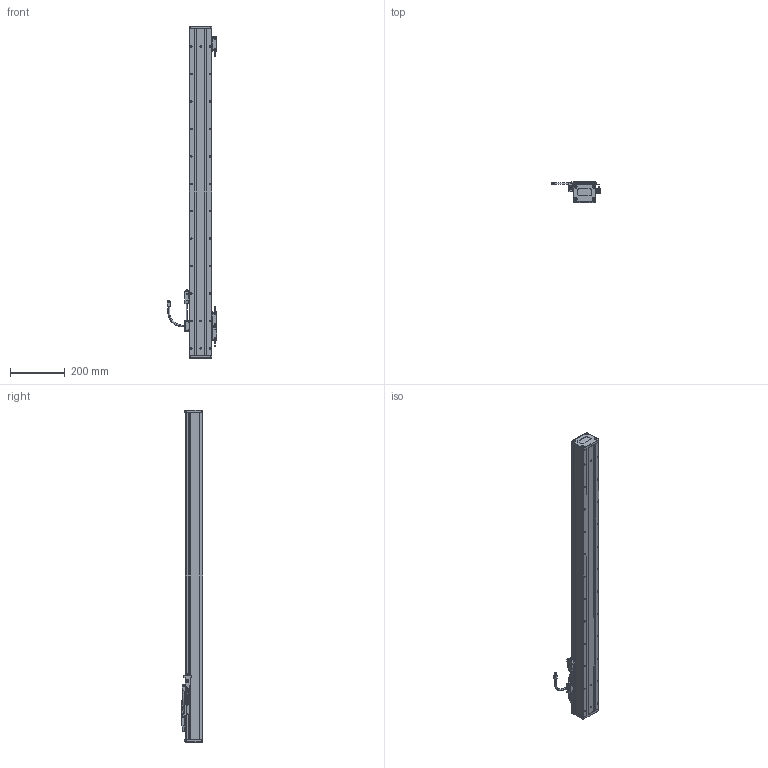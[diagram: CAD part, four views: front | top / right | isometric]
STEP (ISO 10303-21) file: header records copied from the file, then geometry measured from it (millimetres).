
FILE_DESCRIPTION(('Open CASCADE Model'),'2;1');
FILE_NAME('Open CASCADE Shape Model','2025-11-07T02:28:46',('Author'),( 'Open CASCADE'),'Open CASCADE STEP processor 7.6','Open CASCADE 7.6' ,'Unknown');
FILE_SCHEMA(('AUTOMOTIVE_DESIGN { 1 0 10303 214 1 1 1 1 }'));
Length unit declared in the file: millimetre
Products named in the file (24): Open CASCADE STEP translator 7.6 112; Open CASCADE STEP translator 7.6 112.1; Open CASCADE STEP translator 7.6 112.2; Open CASCADE STEP translator 7.6 112.3; Open CASCADE STEP translator 7.6 112.4; Open CASCADE STEP translator 7.6 112.5; Open CASCADE STEP translator 7.6 112.6; Open CASCADE STEP translator 7.6 112.7; Open CASCADE STEP translator 7.6 112.7.1; Open CASCADE STEP translator 7.6 112.7.1.1; Open CASCADE STEP translator 7.6 112.7.1.2; Open CASCADE STEP translator 7.6 112.8; Open CASCADE STEP translator 7.6 112.9; Open CASCADE STEP translator 7.6 112.10; Open CASCADE STEP translator 7.6 112.10.1; Open CASCADE STEP translator 7.6 112.10.1.1; Open CASCADE STEP translator 7.6 112.10.1.2; Open CASCADE STEP translator 7.6 112.10.1.3; Open CASCADE STEP translator 7.6 112.11; Open CASCADE STEP translator 7.6 112.12; Open CASCADE STEP translator 7.6 112.13; Open CASCADE STEP translator 7.6 112.14; Open CASCADE STEP translator 7.6 112.15; Open CASCADE STEP translator 7.6 112.16
Assembly tree (23 placements, depth 4):
  Open CASCADE STEP translator 7.6 112
    Open CASCADE STEP translator 7.6 112.1
    Open CASCADE STEP translator 7.6 112.2
    Open CASCADE STEP translator 7.6 112.3
    Open CASCADE STEP translator 7.6 112.4
    Open CASCADE STEP translator 7.6 112.5
    Open CASCADE STEP translator 7.6 112.6
    Open CASCADE STEP translator 7.6 112.7
      Open CASCADE STEP translator 7.6 112.7.1
        Open CASCADE STEP translator 7.6 112.7.1.1
        Open CASCADE STEP translator 7.6 112.7.1.2
    Open CASCADE STEP translator 7.6 112.8
    Open CASCADE STEP translator 7.6 112.9
    Open CASCADE STEP translator 7.6 112.10
      Open CASCADE STEP translator 7.6 112.10.1
        Open CASCADE STEP translator 7.6 112.10.1.1
        Open CASCADE STEP translator 7.6 112.10.1.2
        Open CASCADE STEP translator 7.6 112.10.1.3
    Open CASCADE STEP translator 7.6 112.11
    Open CASCADE STEP translator 7.6 112.12
    Open CASCADE STEP translator 7.6 112.13
    Open CASCADE STEP translator 7.6 112.14
    Open CASCADE STEP translator 7.6 112.15
    Open CASCADE STEP translator 7.6 112.16
Bounding box: 181.25 x 78 x 1210 mm (x, y, z)
Volume: 3603472.6 mm3; surface area: 765278.1 mm2
Topology: 19 solids, 19 shells, 1960 faces, 4971 edges, 3161 vertices
Faces by surface type: plane 1086, cylinder 672, cone 112, torus 54, bspline 30, sphere 6
Entity records: 135901 total; most frequent: CARTESIAN_POINT 36427, DIRECTION 18829, LINE 11650, VECTOR 11650, ORIENTED_EDGE 9844, PCURVE 9844, DEFINITIONAL_REPRESENTATION 9844, EDGE_CURVE 4922
